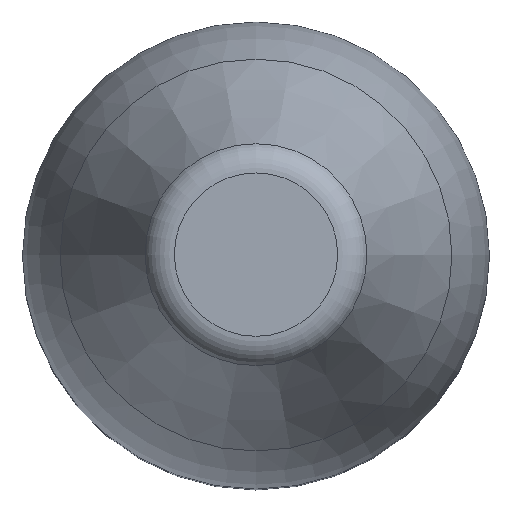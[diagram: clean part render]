
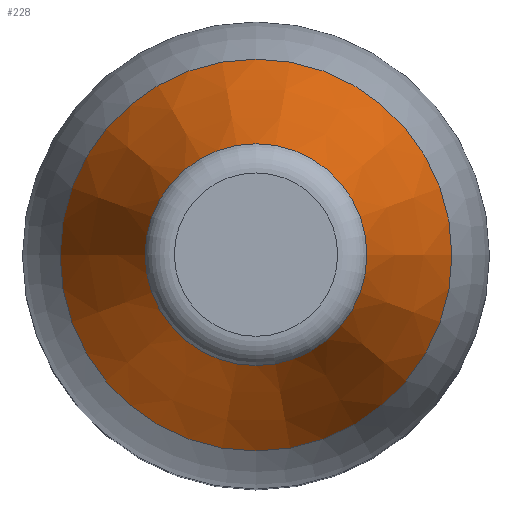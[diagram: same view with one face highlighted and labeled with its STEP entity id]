
A CAD part, top view. The second image highlights one B-rep face of the part: STEP entity #228.
In plain terms, the highlighted conical face has half-angle 20 degrees and reference radius 2.263 mm.
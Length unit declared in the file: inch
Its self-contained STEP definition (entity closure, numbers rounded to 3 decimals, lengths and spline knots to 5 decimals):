
#2 = AXIS2_PLACEMENT_3D ( 'NONE', #351, #346, #203 ) ;
#8 = EDGE_LOOP ( 'NONE', ( #142 ) ) ;
#35 = CARTESIAN_POINT ( 'NONE',  ( 0., 0., 0.43355 ) ) ;
#63 = FACE_BOUND ( 'NONE', #260, .T. ) ;
#73 = CARTESIAN_POINT ( 'NONE',  ( 0., 0., 0.43355 ) ) ;
#96 = VERTEX_POINT ( 'NONE', #187 ) ;
#101 = VERTEX_POINT ( 'NONE', #298 ) ;
#117 = DIRECTION ( 'NONE',  ( -1., 0., 0. ) ) ;
#130 = CONICAL_SURFACE ( 'NONE', #238, 0.08909, 0.349 ) ;
#142 = ORIENTED_EDGE ( 'NONE', *, *, #301, .F. ) ;
#150 = EDGE_CURVE ( 'NONE', #96, #96, #226, .T. ) ;
#187 = CARTESIAN_POINT ( 'NONE',  ( -0.08909, 0., 0.43355 ) ) ;
#203 = DIRECTION ( 'NONE',  ( -1., 0., 0. ) ) ;
#205 = DIRECTION ( 'NONE',  ( 0., 0., -1. ) ) ;
#226 = CIRCLE ( 'NONE', #314, 0.08909 ) ;
#228 = ADVANCED_FACE ( 'NONE', ( #229, #63 ), #130, .T. ) ;
#229 = FACE_OUTER_BOUND ( 'NONE', #8, .T. ) ;
#238 = AXIS2_PLACEMENT_3D ( 'NONE', #35, #205, #117 ) ;
#250 = DIRECTION ( 'NONE',  ( 0., 0., -1. ) ) ;
#260 = EDGE_LOOP ( 'NONE', ( #355 ) ) ;
#298 = CARTESIAN_POINT ( 'NONE',  ( -0.15735, 0., 0.24601 ) ) ;
#301 = EDGE_CURVE ( 'NONE', #101, #101, #358, .T. ) ;
#314 = AXIS2_PLACEMENT_3D ( 'NONE', #73, #250, #367 ) ;
#346 = DIRECTION ( 'NONE',  ( 0., 0., -1. ) ) ;
#351 = CARTESIAN_POINT ( 'NONE',  ( 0., 0., 0.24601 ) ) ;
#355 = ORIENTED_EDGE ( 'NONE', *, *, #150, .T. ) ;
#358 = CIRCLE ( 'NONE', #2, 0.15735 ) ;
#367 = DIRECTION ( 'NONE',  ( -1., 0., 0. ) ) ;
